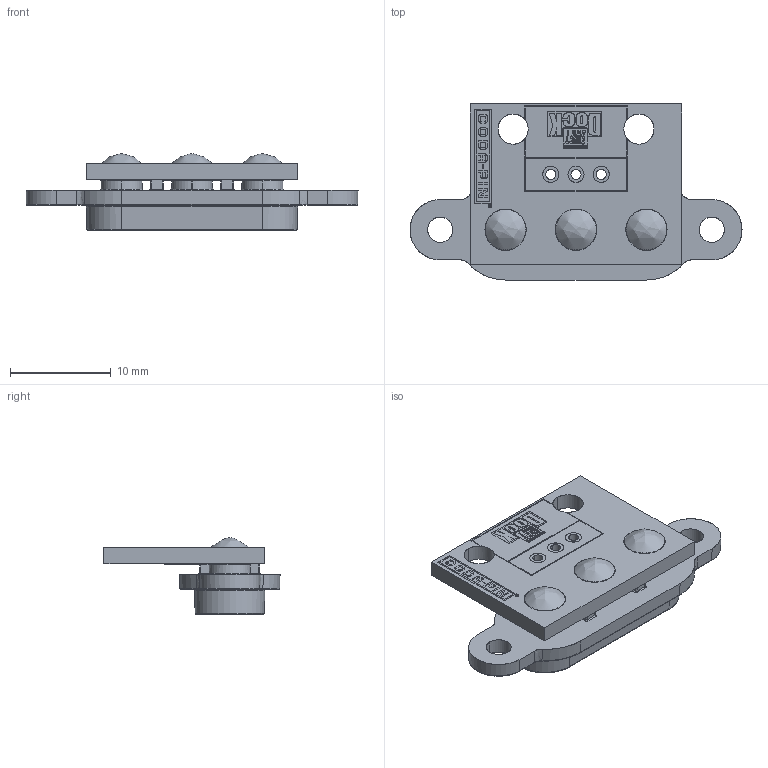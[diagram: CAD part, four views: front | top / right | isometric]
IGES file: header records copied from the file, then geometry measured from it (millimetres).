
Start section: SolidWorks IGES file using analytic representation for surfaces
Global section: file name: F:\OneDrive\Desktop\Coda\28.7\Swift-Dock add 3D\Swift-Dock add 3D\Swift-DOCK Ranges Completed\SD\Swift-Dock-3P-L.IGS; native system: SolidWorks 2021; preprocessor: SolidWorks 2021; author: Georg; date: 210806.130451; units: millimetre
Bounding box: 33 x 17.5 x 7.61 mm (x, y, z)
Surface area: 2056.8 mm2 (no closed solid volume)
Topology: 0 solids, 0 shells, 572 faces, 6003 edges, 5997 vertices
Faces by surface type: bspline 360, revolution 212
